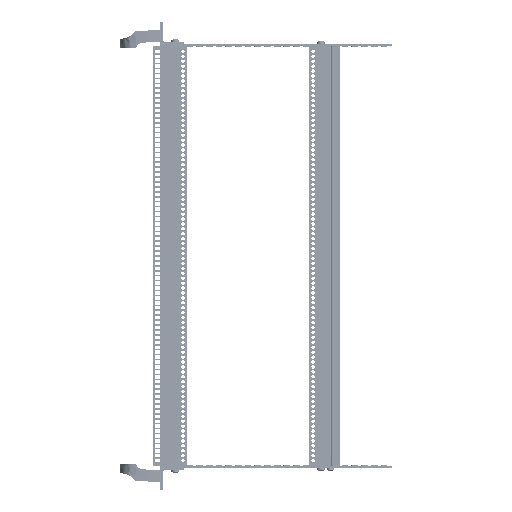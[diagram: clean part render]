
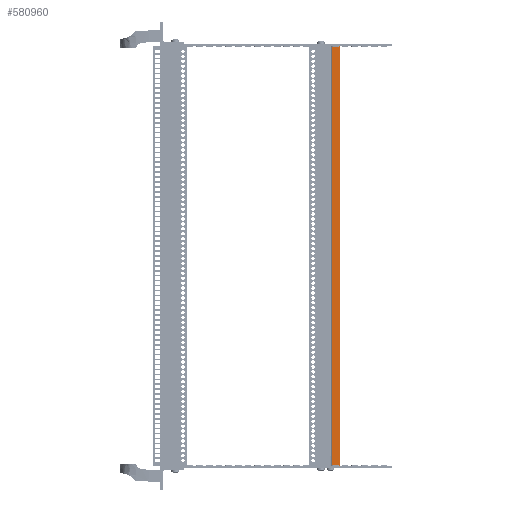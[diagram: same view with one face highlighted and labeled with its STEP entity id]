
A CAD part, front view. The second image highlights one B-rep face of the part: STEP entity #580960.
In plain terms, the highlighted planar face has unit normal (0, -1, 0).
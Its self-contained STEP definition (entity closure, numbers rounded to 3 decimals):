
#536080=CARTESIAN_POINT('',(-1259.913,1584.071,0.));
#536090=VERTEX_POINT('',#536080);
#536120=CARTESIAN_POINT('',(0.,1584.071,0.));
#536130=DIRECTION('',(-1.,0.,0.));
#536140=VECTOR('',#536130,1.);
#536150=LINE('',#536120,#536140);
#536160=CARTESIAN_POINT('',(-1251.973,1584.071,0.));
#536170=VERTEX_POINT('',#536160);
#536180=EDGE_CURVE('',#536170,#536090,#536150,.T.);
#557190=CARTESIAN_POINT('',(-1259.913,1584.071,
434.4));
#557200=DIRECTION('',(0.,0.,-1.));
#557210=VECTOR('',#557200,1.);
#557220=LINE('',#557190,#557210);
#557230=CARTESIAN_POINT('',(-1259.913,1584.071,431.9));
#557240=VERTEX_POINT('',#557230);
#557250=EDGE_CURVE('',#557240,#536090,#557220,.T.);
#579120=CARTESIAN_POINT('',(-1251.973,1584.071,
434.4));
#579130=DIRECTION('',(0.,0.,-1.));
#579140=VECTOR('',#579130,1.);
#579150=LINE('',#579120,#579140);
#579160=CARTESIAN_POINT('',(-1251.973,1584.071,431.9));
#579170=VERTEX_POINT('',#579160);
#579180=EDGE_CURVE('',#579170,#536170,#579150,.T.);
#580800=CARTESIAN_POINT('',(-1259.913,1584.071,
434.4));
#580810=DIRECTION('',(0.,-1.,0.));
#580820=DIRECTION('',(-1.,0.,0.));
#580830=AXIS2_PLACEMENT_3D('',#580800,#580810,#580820);
#580840=PLANE('',#580830);
#580850=ORIENTED_EDGE('',*,*,#579180,.F.);
#580860=ORIENTED_EDGE('',*,*,#536180,.F.);
#580870=ORIENTED_EDGE('',*,*,#557250,.T.);
#580880=CARTESIAN_POINT('',(0.,1584.071,431.9));
#580890=DIRECTION('',(-1.,0.,0.));
#580900=VECTOR('',#580890,1.);
#580910=LINE('',#580880,#580900);
#580920=EDGE_CURVE('',#579170,#557240,#580910,.T.);
#580930=ORIENTED_EDGE('',*,*,#580920,.T.);
#580940=EDGE_LOOP('',(#580930,#580870,#580860,#580850));
#580950=FACE_OUTER_BOUND('',#580940,.T.);
#580960=ADVANCED_FACE('',(#580950),#580840,.T.);
